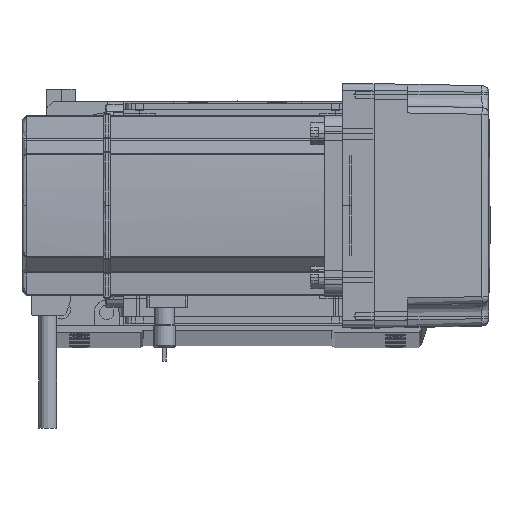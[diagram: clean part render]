
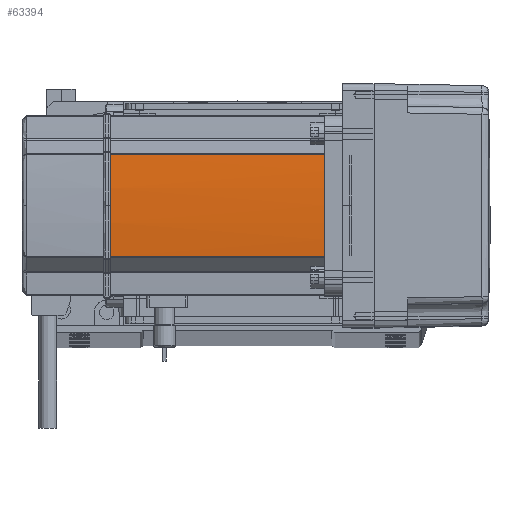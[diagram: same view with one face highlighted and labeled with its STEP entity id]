
A CAD part, top view. The second image highlights one B-rep face of the part: STEP entity #63394.
In plain terms, the highlighted cylindrical face has radius 270 mm (diameter 540 mm), a partial arc.
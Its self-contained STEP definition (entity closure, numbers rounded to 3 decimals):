
#238 = CARTESIAN_POINT ( 'NONE',  ( 230., 0., 134. ) ) ;
#569 = VERTEX_POINT ( 'NONE', #27840 ) ;
#2058 = CYLINDRICAL_SURFACE ( 'NONE', #48075, 270. ) ;
#5481 = VERTEX_POINT ( 'NONE', #30209 ) ;
#8460 = VERTEX_POINT ( 'NONE', #67372 ) ;
#9777 = DIRECTION ( 'NONE',  ( 1., 0., 0. ) ) ;
#10311 = EDGE_LOOP ( 'NONE', ( #37719, #43651, #10364, #15317, #50151 ) ) ;
#10364 = ORIENTED_EDGE ( 'NONE', *, *, #67594, .T. ) ;
#15317 = ORIENTED_EDGE ( 'NONE', *, *, #57071, .F. ) ;
#15328 = DIRECTION ( 'NONE',  ( 0., 0., -1. ) ) ;
#20855 = CIRCLE ( 'NONE', #55701, 270. ) ;
#21168 = DIRECTION ( 'NONE',  ( 0., 0., -1. ) ) ;
#27017 = FACE_OUTER_BOUND ( 'NONE', #10311, .T. ) ;
#27840 = CARTESIAN_POINT ( 'NONE',  ( -39.042, 22.724, 39. ) ) ;
#27952 = LINE ( 'NONE', #62045, #53056 ) ;
#30082 = DIRECTION ( 'NONE',  ( 0., 0., -1. ) ) ;
#30209 = CARTESIAN_POINT ( 'NONE',  ( -39.042, -22.724, 134. ) ) ;
#30503 = EDGE_CURVE ( 'NONE', #5481, #44690, #20855, .T. ) ;
#31848 = DIRECTION ( 'NONE',  ( 0., 0., 1. ) ) ;
#32107 = VECTOR ( 'NONE', #31848, 1000. ) ;
#33589 = DIRECTION ( 'NONE',  ( 1., 0., 0. ) ) ;
#34629 = EDGE_CURVE ( 'NONE', #8460, #5481, #46345, .T. ) ;
#37030 = CARTESIAN_POINT ( 'NONE',  ( -39.042, -22.724, 0. ) ) ;
#37719 = ORIENTED_EDGE ( 'NONE', *, *, #30503, .T. ) ;
#38555 = CARTESIAN_POINT ( 'NONE',  ( 230., 0., 134. ) ) ;
#43334 = VERTEX_POINT ( 'NONE', #58738 ) ;
#43651 = ORIENTED_EDGE ( 'NONE', *, *, #53189, .T. ) ;
#43834 = DIRECTION ( 'NONE',  ( 1., 0., 0. ) ) ;
#44690 = VERTEX_POINT ( 'NONE', #66356 ) ;
#46345 = LINE ( 'NONE', #37030, #32107 ) ;
#47355 = CARTESIAN_POINT ( 'NONE',  ( 230., 0., 0. ) ) ;
#47535 = CARTESIAN_POINT ( 'NONE',  ( 230., 0., 39. ) ) ;
#48075 = AXIS2_PLACEMENT_3D ( 'NONE', #47355, #63372, #43834 ) ;
#49485 = DIRECTION ( 'NONE',  ( 0., 0., -1. ) ) ;
#50151 = ORIENTED_EDGE ( 'NONE', *, *, #34629, .T. ) ;
#53056 = VECTOR ( 'NONE', #30082, 1000. ) ;
#53189 = EDGE_CURVE ( 'NONE', #44690, #43334, #67770, .T. ) ;
#53611 = DIRECTION ( 'NONE',  ( 1., 0., 0. ) ) ;
#55701 = AXIS2_PLACEMENT_3D ( 'NONE', #238, #21168, #53611 ) ;
#57071 = EDGE_CURVE ( 'NONE', #8460, #569, #57369, .T. ) ;
#57369 = CIRCLE ( 'NONE', #61984, 270. ) ;
#58738 = CARTESIAN_POINT ( 'NONE',  ( -39.042, 22.724, 134. ) ) ;
#61783 = AXIS2_PLACEMENT_3D ( 'NONE', #38555, #49485, #33589 ) ;
#61984 = AXIS2_PLACEMENT_3D ( 'NONE', #47535, #15328, #9777 ) ;
#62045 = CARTESIAN_POINT ( 'NONE',  ( -39.042, 22.724, 0. ) ) ;
#63372 = DIRECTION ( 'NONE',  ( 0., 0., 1. ) ) ;
#63394 = ADVANCED_FACE ( 'NONE', ( #27017 ), #2058, .T. ) ;
#66356 = CARTESIAN_POINT ( 'NONE',  ( -40., 0., 134. ) ) ;
#67372 = CARTESIAN_POINT ( 'NONE',  ( -39.042, -22.724, 39. ) ) ;
#67594 = EDGE_CURVE ( 'NONE', #43334, #569, #27952, .T. ) ;
#67770 = CIRCLE ( 'NONE', #61783, 270. ) ;
